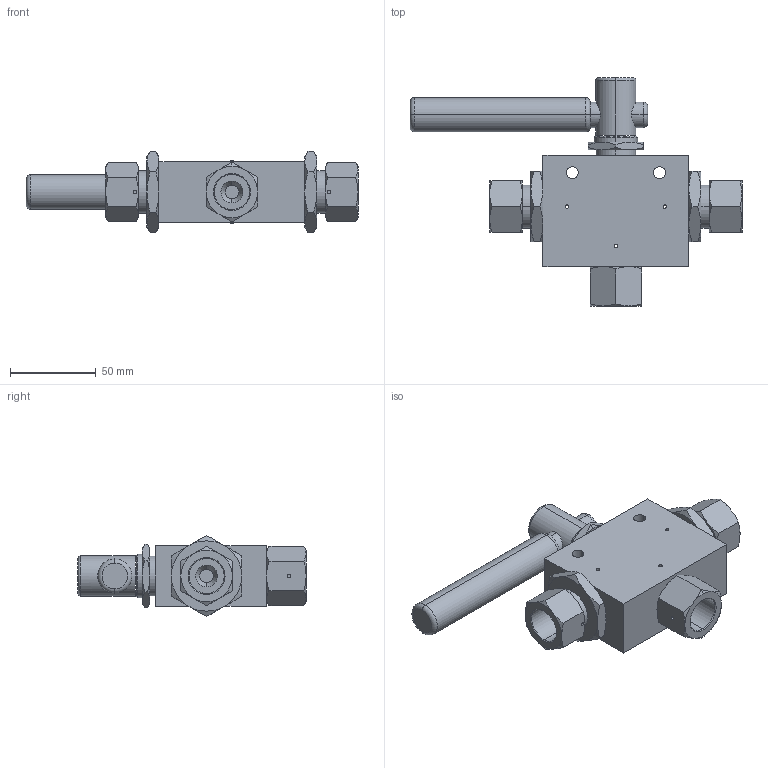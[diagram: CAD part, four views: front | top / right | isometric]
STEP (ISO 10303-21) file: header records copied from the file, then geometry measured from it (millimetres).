
FILE_DESCRIPTION (( 'STEP AP203' ), '1' );
FILE_NAME ('BV2005S09-3-180.STEP', '2022-03-31T10:19:26', ( '' ), ( '' ), 'SwSTEP 2.0', 'SolidWorks 2020', '' );
FILE_SCHEMA (( 'CONFIG_CONTROL_DESIGN' ));
Length unit declared in the file: millimetre
Products named in the file (1): BV2005S09-3-180
Bounding box: 193.5 x 133 x 47.34 mm (x, y, z)
Volume: 296851.5 mm3; surface area: 51429.5 mm2
Topology: 1 solids, 1 shells, 222 faces, 500 edges, 294 vertices
Faces by surface type: cone 94, plane 68, cylinder 52, torus 8
Entity records: 7075 total; most frequent: CARTESIAN_POINT 2217, ORIENTED_EDGE 992, DIRECTION 982, EDGE_CURVE 496, AXIS2_PLACEMENT_3D 425, VERTEX_POINT 294, EDGE_LOOP 258, FACE_OUTER_BOUND 222
